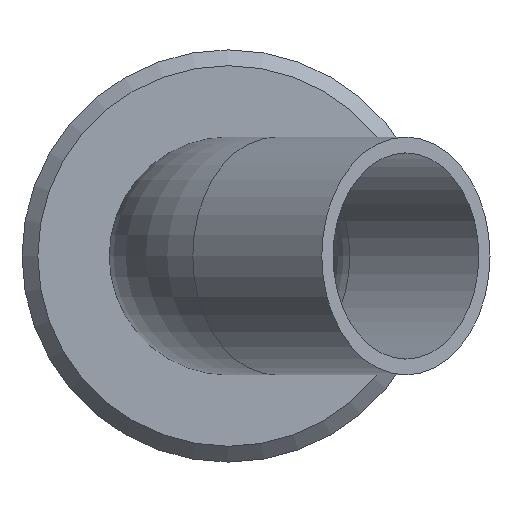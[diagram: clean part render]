
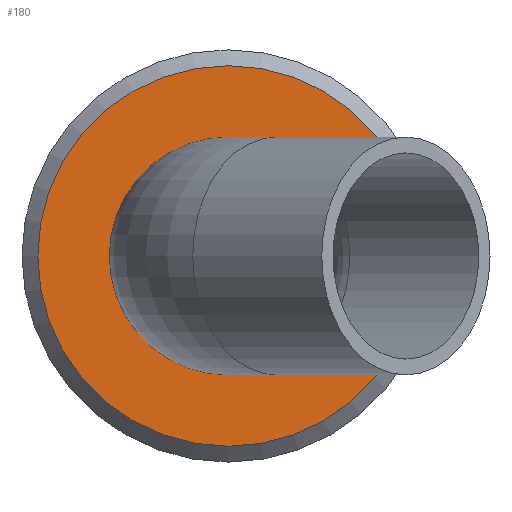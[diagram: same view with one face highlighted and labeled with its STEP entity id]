
A CAD part, left-side view. The second image highlights one B-rep face of the part: STEP entity #180.
In plain terms, the highlighted planar face has unit normal (-1, 0, 0).
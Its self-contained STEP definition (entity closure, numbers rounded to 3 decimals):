
#180 = ADVANCED_FACE( '', ( #237, #238 ), #239, .T. );
#237 = FACE_BOUND( '', #336, .T. );
#238 = FACE_OUTER_BOUND( '', #337, .T. );
#239 = PLANE( '', #338 );
#336 = EDGE_LOOP( '', ( #456 ) );
#337 = EDGE_LOOP( '', ( #457 ) );
#338 = AXIS2_PLACEMENT_3D( '', #458, #459, #460 );
#456 = ORIENTED_EDGE( '', *, *, #578, .T. );
#457 = ORIENTED_EDGE( '', *, *, #579, .F. );
#458 = CARTESIAN_POINT( '', ( 0., 12., 0. ) );
#459 = DIRECTION( '', ( -1., 0., 0. ) );
#460 = DIRECTION( '', ( 0., 0., 1. ) );
#578 = EDGE_CURVE( '', #624, #624, #625, .T. );
#579 = EDGE_CURVE( '', #626, #626, #627, .T. );
#624 = VERTEX_POINT( '', #688 );
#625 = CIRCLE( '', #689, 7.5 );
#626 = VERTEX_POINT( '', #690 );
#627 = CIRCLE( '', #691, 12. );
#688 = CARTESIAN_POINT( '', ( 0., 0., -7.5 ) );
#689 = AXIS2_PLACEMENT_3D( '', #765, #766, #767 );
#690 = CARTESIAN_POINT( '', ( 0., 0., -12. ) );
#691 = AXIS2_PLACEMENT_3D( '', #768, #769, #770 );
#765 = CARTESIAN_POINT( '', ( 0., 0., 0. ) );
#766 = DIRECTION( '', ( 1., 0., 0. ) );
#767 = DIRECTION( '', ( 0., 0., -1. ) );
#768 = CARTESIAN_POINT( '', ( 0., 0., 0. ) );
#769 = DIRECTION( '', ( 1., 0., 0. ) );
#770 = DIRECTION( '', ( 0., 0., -1. ) );
